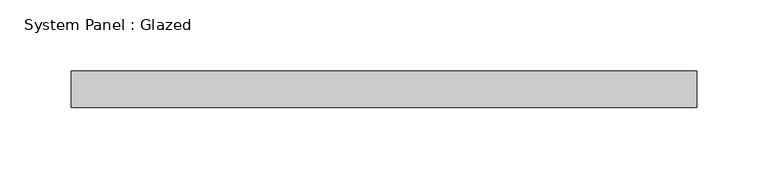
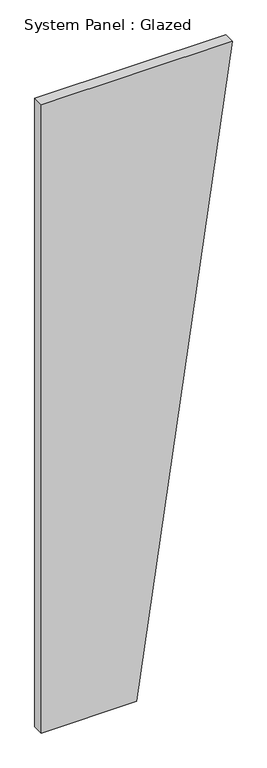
"""IFC4 building model written with IfcOpenShell, lengths in millimetres: plate geometry, System Panel : Glazed."""

from ifc_helpers import new_model, si_unit, frame, origin, place, context, project, spatial, polyline, outline, extrude, source, transform, mapped, element, save


def system_panel_glazed_ed7521f1(model_context):
    return source(origin(), model_context, "Body", "SweptSolid", [
        extrude(outline(polyline([(0.0, -219.2805755), (0.0, 0.0), (1524.0, 219.2805755), (1524.0, -219.2805755), (0.0, -219.2805755)])), frame((0.0, 19.05, 0.0), z_axis=(0.0, 1.0, 0.0), x_axis=(0.0, 0.0, 1.0)), (0.0, 0.0, 1.0), 25.4),
    ])


if __name__ == "__main__":
    model = new_model("IFC4")
    model_context = context("Model", 3, world=origin())
    ifc_project = project(units=[si_unit("LENGTHUNIT", "METRE", prefix="MILLI")], contexts=[model_context])
    site = spatial("IfcSite", under=ifc_project)
    building = spatial("IfcBuilding", under=site)
    placement = place(None, origin())
    system_panel_glazed_shape = system_panel_glazed_ed7521f1(model_context)
    element("IfcPlate", 1, ObjectType="System Panel : Glazed", at=placement, inside=building, context=model_context, shape_type="MappedRepresentation", body=[
        mapped(system_panel_glazed_shape, transform((0.0, 0.0, 0.0), x_axis=(1.0, 0.0, 0.0), y_axis=(0.0, 1.0, 0.0), z_axis=(0.0, 0.0, 1.0))),
    ])
    save(model, "model.ifc")
